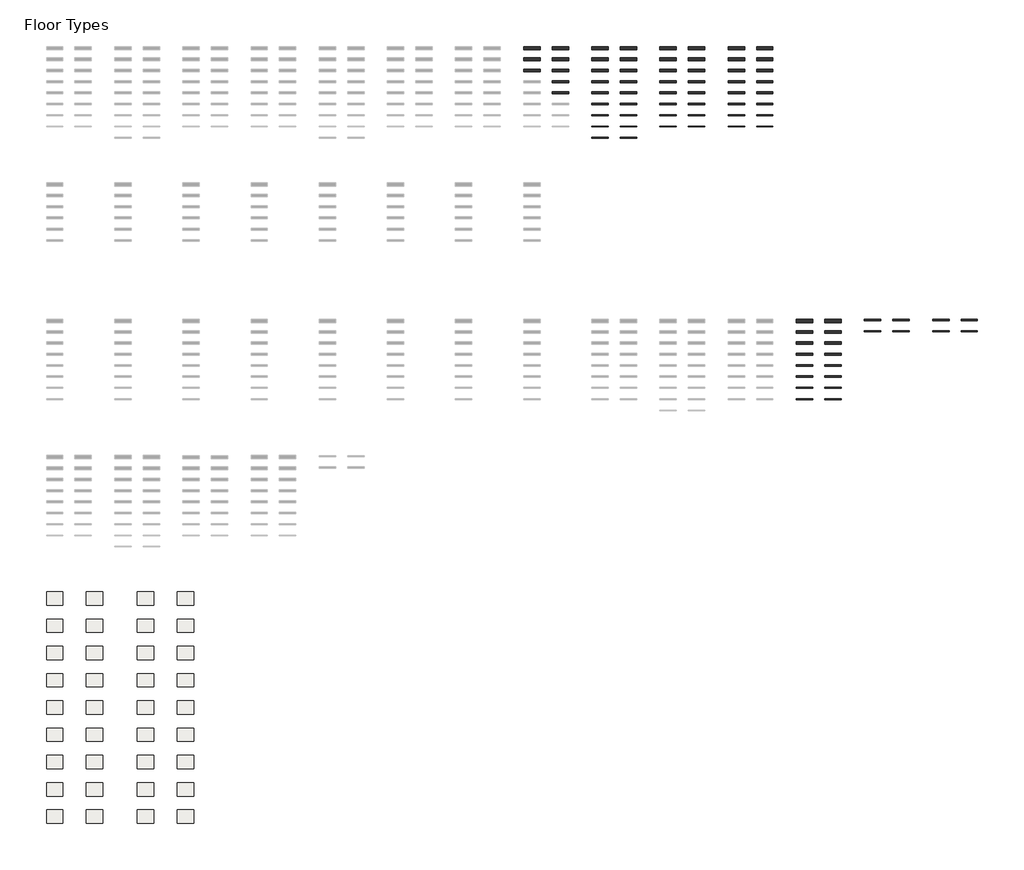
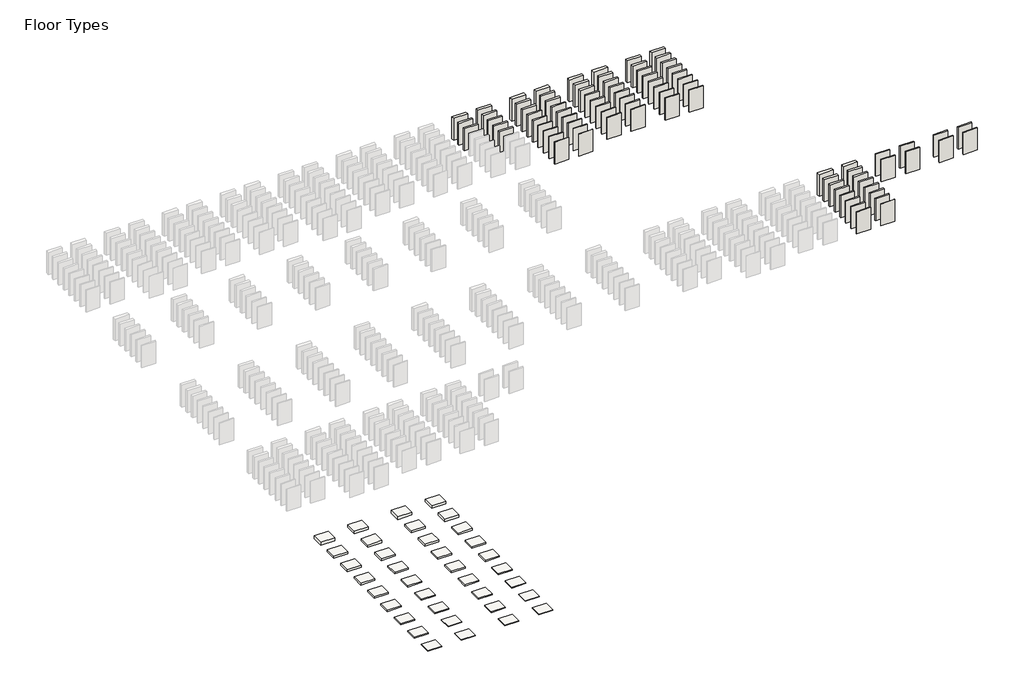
# One storey, part 4 of 4: 82 walls, 36 coverings.
"""IFC4 building model written with IfcOpenShell, lengths in millimetres."""

from ifc_helpers import new_model, si_unit, origin, origin_with_axes, place, context, project, spatial, polyline, outline, extrude, element, save

model = new_model("IFC4")

# Units and contexts
model_context = context("Model", 3, world=origin())
ifc_project = project(units=[si_unit("LENGTHUNIT", "METRE", prefix="MILLI")], contexts=[model_context])

# Site, building, storey
site = spatial("IfcSite", under=ifc_project)
building = spatial("IfcBuilding", under=site)
storey = spatial("IfcBuildingStorey", under=building, Name="Floor Types", Elevation=0.0)

# Coverings
placement = place(None, origin())
element("IfcCovering", 1, ObjectType="ASTE_PS1200PC_NS_300mm", at=placement, inside=storey, context=model_context, shape_type="SweptSolid", body=[
    extrude(outline(polyline([(1447.8085217, -64998.0), (1447.8085217, -66173.2958828), (0.0, -66173.2958828), (0.0, -64998.0), (1447.8085217, -64998.0)])), origin_with_axes(), (0.0, 0.0, 1.0), 300.0),
])
element("IfcCovering", 2, ObjectType="ASTE_PS1200PC_EW_300mm", at=placement, inside=storey, context=model_context, shape_type="SweptSolid", body=[
    extrude(outline(polyline([(4947.8085217, -64998.0), (4947.8085217, -66173.2958828), (3500.0, -66173.2958828), (3500.0, -64998.0), (4947.8085217, -64998.0)])), origin_with_axes(), (0.0, 0.0, 1.0), 300.0),
])
element("IfcCovering", 3, ObjectType="ASTE_PS1200PC_NS_240mm", at=placement, inside=storey, context=model_context, shape_type="SweptSolid", body=[
    extrude(outline(polyline([(1447.8085217, -67398.0), (1447.8085217, -68573.2958828), (0.0, -68573.2958828), (0.0, -67398.0), (1447.8085217, -67398.0)])), origin_with_axes(), (0.0, 0.0, 1.0), 240.0),
])
element("IfcCovering", 4, ObjectType="ASTE_PS1200PC_EW_240mm", at=placement, inside=storey, context=model_context, shape_type="SweptSolid", body=[
    extrude(outline(polyline([(4947.8085217, -67398.0), (4947.8085217, -68573.2958828), (3500.0, -68573.2958828), (3500.0, -67398.0), (4947.8085217, -67398.0)])), origin_with_axes(), (0.0, 0.0, 1.0), 240.0),
])
element("IfcCovering", 5, ObjectType="ASTE_PS1200PC_NS_200mm", at=placement, inside=storey, context=model_context, shape_type="SweptSolid", body=[
    extrude(outline(polyline([(1447.8085217, -69798.0), (1447.8085217, -70973.2958828), (0.0, -70973.2958828), (0.0, -69798.0), (1447.8085217, -69798.0)])), origin_with_axes(), (0.0, 0.0, 1.0), 200.0),
])
element("IfcCovering", 6, ObjectType="ASTE_PS1200PC_EW_200mm", at=placement, inside=storey, context=model_context, shape_type="SweptSolid", body=[
    extrude(outline(polyline([(4947.8085217, -69798.0), (4947.8085217, -70973.2958828), (3500.0, -70973.2958828), (3500.0, -69798.0), (4947.8085217, -69798.0)])), origin_with_axes(), (0.0, 0.0, 1.0), 200.0),
])
element("IfcCovering", 7, ObjectType="ASTE_PS1200PC_NS_175mm", at=placement, inside=storey, context=model_context, shape_type="SweptSolid", body=[
    extrude(outline(polyline([(1447.8085217, -72198.0), (1447.8085217, -73373.2958828), (0.0, -73373.2958828), (0.0, -72198.0), (1447.8085217, -72198.0)])), origin_with_axes(), (0.0, 0.0, 1.0), 175.0),
])
element("IfcCovering", 8, ObjectType="ASTE_PS1200PC_EW_175mm", at=placement, inside=storey, context=model_context, shape_type="SweptSolid", body=[
    extrude(outline(polyline([(4947.8085217, -72198.0), (4947.8085217, -73373.2958828), (3500.0, -73373.2958828), (3500.0, -72198.0), (4947.8085217, -72198.0)])), origin_with_axes(), (0.0, 0.0, 1.0), 175.0),
])
element("IfcCovering", 9, ObjectType="ASTE_PS1200PC_NS_150mm", at=placement, inside=storey, context=model_context, shape_type="SweptSolid", body=[
    extrude(outline(polyline([(1447.8085217, -74598.0), (1447.8085217, -75773.2958828), (0.0, -75773.2958828), (0.0, -74598.0), (1447.8085217, -74598.0)])), origin_with_axes(), (0.0, 0.0, 1.0), 150.0),
])
element("IfcCovering", 10, ObjectType="ASTE_PS1200PC_EW_150mm", at=placement, inside=storey, context=model_context, shape_type="SweptSolid", body=[
    extrude(outline(polyline([(4947.8085217, -74598.0), (4947.8085217, -75773.2958828), (3500.0, -75773.2958828), (3500.0, -74598.0), (4947.8085217, -74598.0)])), origin_with_axes(), (0.0, 0.0, 1.0), 150.0),
])
element("IfcCovering", 11, ObjectType="ASTE_PS1200PC_NS_120mm", at=placement, inside=storey, context=model_context, shape_type="SweptSolid", body=[
    extrude(outline(polyline([(1447.8085217, -76998.0), (1447.8085217, -78173.2958828), (0.0, -78173.2958828), (0.0, -76998.0), (1447.8085217, -76998.0)])), origin_with_axes(), (0.0, 0.0, 1.0), 120.0),
])
element("IfcCovering", 12, ObjectType="ASTE_PS1200PC_EW_120mm", at=placement, inside=storey, context=model_context, shape_type="SweptSolid", body=[
    extrude(outline(polyline([(4947.8085217, -76998.0), (4947.8085217, -78173.2958828), (3500.0, -78173.2958828), (3500.0, -76998.0), (4947.8085217, -76998.0)])), origin_with_axes(), (0.0, 0.0, 1.0), 120.0),
])
element("IfcCovering", 13, ObjectType="ASTE_PS1200PC_NS_100mm", at=placement, inside=storey, context=model_context, shape_type="SweptSolid", body=[
    extrude(outline(polyline([(1447.8085217, -79398.0), (1447.8085217, -80573.2958828), (0.0, -80573.2958828), (0.0, -79398.0), (1447.8085217, -79398.0)])), origin_with_axes(), (0.0, 0.0, 1.0), 100.0),
])
element("IfcCovering", 14, ObjectType="ASTE_PS1200PC_EW_100mm", at=placement, inside=storey, context=model_context, shape_type="SweptSolid", body=[
    extrude(outline(polyline([(4947.8085217, -79398.0), (4947.8085217, -80573.2958828), (3500.0, -80573.2958828), (3500.0, -79398.0), (4947.8085217, -79398.0)])), origin_with_axes(), (0.0, 0.0, 1.0), 100.0),
])
element("IfcCovering", 15, ObjectType="ASTE_PS1200PC_NS_080mm", at=placement, inside=storey, context=model_context, shape_type="SweptSolid", body=[
    extrude(outline(polyline([(1447.8085217, -81798.0), (1447.8085217, -82973.2958828), (0.0, -82973.2958828), (0.0, -81798.0), (1447.8085217, -81798.0)])), origin_with_axes(), (0.0, 0.0, 1.0), 80.0),
])
element("IfcCovering", 16, ObjectType="ASTE_PS1200PC_EW_080mm", at=placement, inside=storey, context=model_context, shape_type="SweptSolid", body=[
    extrude(outline(polyline([(4947.8085217, -81798.0), (4947.8085217, -82973.2958828), (3500.0, -82973.2958828), (3500.0, -81798.0), (4947.8085217, -81798.0)])), origin_with_axes(), (0.0, 0.0, 1.0), 80.0),
])
element("IfcCovering", 17, ObjectType="ASTE_PS1200PC_NS_050mm", at=placement, inside=storey, context=model_context, shape_type="SweptSolid", body=[
    extrude(outline(polyline([(1447.8085217, -84198.0), (1447.8085217, -85373.2958828), (0.0, -85373.2958828), (0.0, -84198.0), (1447.8085217, -84198.0)])), origin_with_axes(), (0.0, 0.0, 1.0), 50.0),
])
element("IfcCovering", 18, ObjectType="ASTE_PS1200PC_EW_050mm", at=placement, inside=storey, context=model_context, shape_type="SweptSolid", body=[
    extrude(outline(polyline([(4947.8085217, -84198.0), (4947.8085217, -85373.2958828), (3500.0, -85373.2958828), (3500.0, -84198.0), (4947.8085217, -84198.0)])), origin_with_axes(), (0.0, 0.0, 1.0), 50.0),
])
element("IfcCovering", 19, ObjectType="ASTE_PS1200PC-LEC_NS_300mm", at=placement, inside=storey, context=model_context, shape_type="SweptSolid", body=[
    extrude(outline(polyline([(9447.8085217, -64998.0), (9447.8085217, -66173.2958828), (8000.0, -66173.2958828), (8000.0, -64998.0), (9447.8085217, -64998.0)])), origin_with_axes(), (0.0, 0.0, 1.0), 300.0),
])
element("IfcCovering", 20, ObjectType="ASTE_PS1200PC-LEC_EW_300mm", at=placement, inside=storey, context=model_context, shape_type="SweptSolid", body=[
    extrude(outline(polyline([(12947.8085217, -64998.0), (12947.8085217, -66173.2958828), (11500.0, -66173.2958828), (11500.0, -64998.0), (12947.8085217, -64998.0)])), origin_with_axes(), (0.0, 0.0, 1.0), 300.0),
])
element("IfcCovering", 21, ObjectType="ASTE_PS1200PC-LEC_NS_240mm", at=placement, inside=storey, context=model_context, shape_type="SweptSolid", body=[
    extrude(outline(polyline([(9447.8085217, -67398.0), (9447.8085217, -68573.2958828), (8000.0, -68573.2958828), (8000.0, -67398.0), (9447.8085217, -67398.0)])), origin_with_axes(), (0.0, 0.0, 1.0), 240.0),
])
element("IfcCovering", 22, ObjectType="ASTE_PS1200PC-LEC_EW_240mm", at=placement, inside=storey, context=model_context, shape_type="SweptSolid", body=[
    extrude(outline(polyline([(12947.8085217, -67398.0), (12947.8085217, -68573.2958828), (11500.0, -68573.2958828), (11500.0, -67398.0), (12947.8085217, -67398.0)])), origin_with_axes(), (0.0, 0.0, 1.0), 240.0),
])
element("IfcCovering", 23, ObjectType="ASTE_PS1200PC-LEC_NS_200mm", at=placement, inside=storey, context=model_context, shape_type="SweptSolid", body=[
    extrude(outline(polyline([(9447.8085217, -69798.0), (9447.8085217, -70973.2958828), (8000.0, -70973.2958828), (8000.0, -69798.0), (9447.8085217, -69798.0)])), origin_with_axes(), (0.0, 0.0, 1.0), 200.0),
])
element("IfcCovering", 24, ObjectType="ASTE_PS1200PC-LEC_EW_200mm", at=placement, inside=storey, context=model_context, shape_type="SweptSolid", body=[
    extrude(outline(polyline([(12947.8085217, -69798.0), (12947.8085217, -70973.2958828), (11500.0, -70973.2958828), (11500.0, -69798.0), (12947.8085217, -69798.0)])), origin_with_axes(), (0.0, 0.0, 1.0), 200.0),
])
element("IfcCovering", 25, ObjectType="ASTE_PS1200PC-LEC_NS_175mm", at=placement, inside=storey, context=model_context, shape_type="SweptSolid", body=[
    extrude(outline(polyline([(9447.8085217, -72198.0), (9447.8085217, -73373.2958828), (8000.0, -73373.2958828), (8000.0, -72198.0), (9447.8085217, -72198.0)])), origin_with_axes(), (0.0, 0.0, 1.0), 175.0),
])
element("IfcCovering", 26, ObjectType="ASTE_PS1200PC-LEC_EW_175mm", at=placement, inside=storey, context=model_context, shape_type="SweptSolid", body=[
    extrude(outline(polyline([(12947.8085217, -72198.0), (12947.8085217, -73373.2958828), (11500.0, -73373.2958828), (11500.0, -72198.0), (12947.8085217, -72198.0)])), origin_with_axes(), (0.0, 0.0, 1.0), 175.0),
])
element("IfcCovering", 27, ObjectType="ASTE_PS1200PC-LEC_NS_150mm", at=placement, inside=storey, context=model_context, shape_type="SweptSolid", body=[
    extrude(outline(polyline([(9447.8085217, -74598.0), (9447.8085217, -75773.2958828), (8000.0, -75773.2958828), (8000.0, -74598.0), (9447.8085217, -74598.0)])), origin_with_axes(), (0.0, 0.0, 1.0), 150.0),
])
element("IfcCovering", 28, ObjectType="ASTE_PS1200PC-LEC_EW_150mm", at=placement, inside=storey, context=model_context, shape_type="SweptSolid", body=[
    extrude(outline(polyline([(12947.8085217, -74598.0), (12947.8085217, -75773.2958828), (11500.0, -75773.2958828), (11500.0, -74598.0), (12947.8085217, -74598.0)])), origin_with_axes(), (0.0, 0.0, 1.0), 150.0),
])
element("IfcCovering", 29, ObjectType="ASTE_PS1200PC-LEC_NS_120mm", at=placement, inside=storey, context=model_context, shape_type="SweptSolid", body=[
    extrude(outline(polyline([(9447.8085217, -76998.0), (9447.8085217, -78173.2958828), (8000.0, -78173.2958828), (8000.0, -76998.0), (9447.8085217, -76998.0)])), origin_with_axes(), (0.0, 0.0, 1.0), 120.0),
])
element("IfcCovering", 30, ObjectType="ASTE_PS1200PC-LEC_EW_120mm", at=placement, inside=storey, context=model_context, shape_type="SweptSolid", body=[
    extrude(outline(polyline([(12947.8085217, -76998.0), (12947.8085217, -78173.2958828), (11500.0, -78173.2958828), (11500.0, -76998.0), (12947.8085217, -76998.0)])), origin_with_axes(), (0.0, 0.0, 1.0), 120.0),
])
element("IfcCovering", 31, ObjectType="ASTE_PS1200PC-LEC_NS_100mm", at=placement, inside=storey, context=model_context, shape_type="SweptSolid", body=[
    extrude(outline(polyline([(9447.8085217, -79398.0), (9447.8085217, -80573.2958828), (8000.0, -80573.2958828), (8000.0, -79398.0), (9447.8085217, -79398.0)])), origin_with_axes(), (0.0, 0.0, 1.0), 100.0),
])
element("IfcCovering", 32, ObjectType="ASTE_PS1200PC-LEC_EW_100mm", at=placement, inside=storey, context=model_context, shape_type="SweptSolid", body=[
    extrude(outline(polyline([(12947.8085217, -79398.0), (12947.8085217, -80573.2958828), (11500.0, -80573.2958828), (11500.0, -79398.0), (12947.8085217, -79398.0)])), origin_with_axes(), (0.0, 0.0, 1.0), 100.0),
])
element("IfcCovering", 33, ObjectType="ASTE_PS1200PC-LEC_NS_080mm", at=placement, inside=storey, context=model_context, shape_type="SweptSolid", body=[
    extrude(outline(polyline([(9447.8085217, -81798.0), (9447.8085217, -82973.2958828), (8000.0, -82973.2958828), (8000.0, -81798.0), (9447.8085217, -81798.0)])), origin_with_axes(), (0.0, 0.0, 1.0), 80.0),
])
element("IfcCovering", 34, ObjectType="ASTE_PS1200PC-LEC_EW_080mm", at=placement, inside=storey, context=model_context, shape_type="SweptSolid", body=[
    extrude(outline(polyline([(12947.8085217, -81798.0), (12947.8085217, -82973.2958828), (11500.0, -82973.2958828), (11500.0, -81798.0), (12947.8085217, -81798.0)])), origin_with_axes(), (0.0, 0.0, 1.0), 80.0),
])
element("IfcCovering", 35, ObjectType="ASTE_PS1200PC-LEC_NS_050mm", at=placement, inside=storey, context=model_context, shape_type="SweptSolid", body=[
    extrude(outline(polyline([(9447.8085217, -84198.0), (9447.8085217, -85373.2958828), (8000.0, -85373.2958828), (8000.0, -84198.0), (9447.8085217, -84198.0)])), origin_with_axes(), (0.0, 0.0, 1.0), 50.0),
])
element("IfcCovering", 36, ObjectType="ASTE_PS1200PC-LEC_EW_050mm", at=placement, inside=storey, context=model_context, shape_type="SweptSolid", body=[
    extrude(outline(polyline([(12947.8085217, -84198.0), (12947.8085217, -85373.2958828), (11500.0, -85373.2958828), (11500.0, -84198.0), (12947.8085217, -84198.0)])), origin_with_axes(), (0.0, 0.0, 1.0), 50.0),
])

# Walls
element("IfcWall", 37, ObjectType="ASTL_PS1200PB-LEC_Hz_300mm", at=placement, inside=storey, context=model_context, shape_type="SweptSolid", body=[
    extrude(outline(polyline([(43447.8085217, -17298.0), (42000.0, -17298.0), (42000.0, -16998.0), (43447.8085217, -16998.0), (43447.8085217, -17298.0)])), origin_with_axes(), (0.0, 0.0, 1.0), 2400.0),
])
element("IfcWall", 38, ObjectType="ASTL_PS1200PB-LEC_Hz_240mm", at=placement, inside=storey, context=model_context, shape_type="SweptSolid", body=[
    extrude(outline(polyline([(43447.8085217, -18239.0), (42000.0, -18239.0), (42000.0, -17999.0), (43447.8085217, -17999.0), (43447.8085217, -18239.0)])), origin_with_axes(), (0.0, 0.0, 1.0), 2400.0),
])
element("IfcWall", 39, ObjectType="ASTL_PS1200PB-LEC_Hz_200mm", at=placement, inside=storey, context=model_context, shape_type="SweptSolid", body=[
    extrude(outline(polyline([(43447.8085217, -19199.0), (42000.0, -19199.0), (42000.0, -18999.0), (43447.8085217, -18999.0), (43447.8085217, -19199.0)])), origin_with_axes(), (0.0, 0.0, 1.0), 2400.0),
])
element("IfcWall", 40, ObjectType="ASTL_PS1200PB-LEC_Vt_300mm", at=placement, inside=storey, context=model_context, shape_type="SweptSolid", body=[
    extrude(outline(polyline([(45947.8085217, -17298.0), (44500.0, -17298.0), (44500.0, -16998.0), (45947.8085217, -16998.0), (45947.8085217, -17298.0)])), origin_with_axes(), (0.0, 0.0, 1.0), 2400.0),
])
element("IfcWall", 41, ObjectType="ASTL_PS1200PB-LEC_Vt_240mm", at=placement, inside=storey, context=model_context, shape_type="SweptSolid", body=[
    extrude(outline(polyline([(45947.8085217, -18239.0), (44500.0, -18239.0), (44500.0, -17999.0), (45947.8085217, -17999.0), (45947.8085217, -18239.0)])), origin_with_axes(), (0.0, 0.0, 1.0), 2400.0),
])
element("IfcWall", 42, ObjectType="ASTL_PS1200PB-LEC_Vt_200mm", at=placement, inside=storey, context=model_context, shape_type="SweptSolid", body=[
    extrude(outline(polyline([(45947.8085217, -19199.0), (44500.0, -19199.0), (44500.0, -18999.0), (45947.8085217, -18999.0), (45947.8085217, -19199.0)])), origin_with_axes(), (0.0, 0.0, 1.0), 2400.0),
])
element("IfcWall", 43, ObjectType="ASTL_PS1200PB-LEC_Vt_175mm", at=placement, inside=storey, context=model_context, shape_type="SweptSolid", body=[
    extrude(outline(polyline([(45947.8085217, -20174.0), (44500.0, -20174.0), (44500.0, -19999.0), (45947.8085217, -19999.0), (45947.8085217, -20174.0)])), origin_with_axes(), (0.0, 0.0, 1.0), 2400.0),
])
element("IfcWall", 44, ObjectType="ASTL_PS1200PB-LEC_Vt_150mm", at=placement, inside=storey, context=model_context, shape_type="SweptSolid", body=[
    extrude(outline(polyline([(45947.8085217, -21149.0), (44500.0, -21149.0), (44500.0, -20999.0), (45947.8085217, -20999.0), (45947.8085217, -21149.0)])), origin_with_axes(), (0.0, 0.0, 1.0), 2400.0),
])
element("IfcWall", 45, ObjectType="ASTE_PS1200PB-LEC_Hz_300mm", at=placement, inside=storey, context=model_context, shape_type="SweptSolid", body=[
    extrude(outline(polyline([(49447.8085217, -17298.0), (48000.0, -17298.0), (48000.0, -16998.0), (49447.8085217, -16998.0), (49447.8085217, -17298.0)])), origin_with_axes(), (0.0, 0.0, 1.0), 2400.0),
])
element("IfcWall", 46, ObjectType="ASTE_PS1200PB-LEC_Hz_240mm", at=placement, inside=storey, context=model_context, shape_type="SweptSolid", body=[
    extrude(outline(polyline([(49447.8085217, -18239.0), (48000.0, -18239.0), (48000.0, -17999.0), (49447.8085217, -17999.0), (49447.8085217, -18239.0)])), origin_with_axes(), (0.0, 0.0, 1.0), 2400.0),
])
element("IfcWall", 47, ObjectType="ASTE_PS1200PB-LEC_Hz_200mm", at=placement, inside=storey, context=model_context, shape_type="SweptSolid", body=[
    extrude(outline(polyline([(49447.8085217, -19199.0), (48000.0, -19199.0), (48000.0, -18999.0), (49447.8085217, -18999.0), (49447.8085217, -19199.0)])), origin_with_axes(), (0.0, 0.0, 1.0), 2400.0),
])
element("IfcWall", 48, ObjectType="ASTE_PS1200PB-LEC_Hz_175mm", at=placement, inside=storey, context=model_context, shape_type="SweptSolid", body=[
    extrude(outline(polyline([(49447.8085217, -20174.0), (48000.0, -20174.0), (48000.0, -19999.0), (49447.8085217, -19999.0), (49447.8085217, -20174.0)])), origin_with_axes(), (0.0, 0.0, 1.0), 2400.0),
])
element("IfcWall", 49, ObjectType="ASTE_PS1200PB-LEC_Hz_150mm", at=placement, inside=storey, context=model_context, shape_type="SweptSolid", body=[
    extrude(outline(polyline([(49447.8085217, -21149.0), (48000.0, -21149.0), (48000.0, -20999.0), (49447.8085217, -20999.0), (49447.8085217, -21149.0)])), origin_with_axes(), (0.0, 0.0, 1.0), 2400.0),
])
element("IfcWall", 50, ObjectType="ASTE_PS1200PB-LEC_Hz_120mm", at=placement, inside=storey, context=model_context, shape_type="SweptSolid", body=[
    extrude(outline(polyline([(49447.8085217, -22119.0), (48000.0, -22119.0), (48000.0, -21999.0), (49447.8085217, -21999.0), (49447.8085217, -22119.0)])), origin_with_axes(), (0.0, 0.0, 1.0), 2400.0),
])
element("IfcWall", 51, ObjectType="ASTE_PS1200PB-LEC_Hz_100mm", at=placement, inside=storey, context=model_context, shape_type="SweptSolid", body=[
    extrude(outline(polyline([(49447.8085217, -23099.0), (48000.0, -23099.0), (48000.0, -22999.0), (49447.8085217, -22999.0), (49447.8085217, -23099.0)])), origin_with_axes(), (0.0, 0.0, 1.0), 2400.0),
])
element("IfcWall", 52, ObjectType="ASTE_PS1200PB-LEC_Hz_080mm", at=placement, inside=storey, context=model_context, shape_type="SweptSolid", body=[
    extrude(outline(polyline([(49447.8085217, -24079.0), (48000.0, -24079.0), (48000.0, -23999.0), (49447.8085217, -23999.0), (49447.8085217, -24079.0)])), origin_with_axes(), (0.0, 0.0, 1.0), 2400.0),
])
element("IfcWall", 53, ObjectType="ASTE_PS1200PB-LEC_Vt_300mm", at=placement, inside=storey, context=model_context, shape_type="SweptSolid", body=[
    extrude(outline(polyline([(51947.8085217, -17299.0), (50500.0, -17299.0), (50500.0, -16999.0), (51947.8085217, -16999.0), (51947.8085217, -17299.0)])), origin_with_axes(), (0.0, 0.0, 1.0), 2400.0),
])
element("IfcWall", 54, ObjectType="ASTE_PS1200PB-LEC_Vt_240mm", at=placement, inside=storey, context=model_context, shape_type="SweptSolid", body=[
    extrude(outline(polyline([(51947.8085217, -18239.0), (50500.0, -18239.0), (50500.0, -17999.0), (51947.8085217, -17999.0), (51947.8085217, -18239.0)])), origin_with_axes(), (0.0, 0.0, 1.0), 2400.0),
])
element("IfcWall", 55, ObjectType="ASTE_PS1200PB-LEC_Vt_200mm", at=placement, inside=storey, context=model_context, shape_type="SweptSolid", body=[
    extrude(outline(polyline([(51947.8085217, -19199.0), (50500.0, -19199.0), (50500.0, -18999.0), (51947.8085217, -18999.0), (51947.8085217, -19199.0)])), origin_with_axes(), (0.0, 0.0, 1.0), 2400.0),
])
element("IfcWall", 56, ObjectType="ASTE_PS1200PB-LEC_Vt_175mm", at=placement, inside=storey, context=model_context, shape_type="SweptSolid", body=[
    extrude(outline(polyline([(51947.8085217, -20174.0), (50500.0, -20174.0), (50500.0, -19999.0), (51947.8085217, -19999.0), (51947.8085217, -20174.0)])), origin_with_axes(), (0.0, 0.0, 1.0), 2400.0),
])
element("IfcWall", 57, ObjectType="ASTE_PS1200PB-LEC_Vt_150mm", at=placement, inside=storey, context=model_context, shape_type="SweptSolid", body=[
    extrude(outline(polyline([(51947.8085217, -21149.0), (50500.0, -21149.0), (50500.0, -20999.0), (51947.8085217, -20999.0), (51947.8085217, -21149.0)])), origin_with_axes(), (0.0, 0.0, 1.0), 2400.0),
])
element("IfcWall", 58, ObjectType="ASTE_PS1200PB-LEC_Vt_120mm", at=placement, inside=storey, context=model_context, shape_type="SweptSolid", body=[
    extrude(outline(polyline([(51947.8085217, -22119.0), (50500.0, -22119.0), (50500.0, -21999.0), (51947.8085217, -21999.0), (51947.8085217, -22119.0)])), origin_with_axes(), (0.0, 0.0, 1.0), 2400.0),
])
element("IfcWall", 59, ObjectType="ASTE_PS1200PB-LEC_Vt_100mm", at=placement, inside=storey, context=model_context, shape_type="SweptSolid", body=[
    extrude(outline(polyline([(51947.8085217, -23099.0), (50500.0, -23099.0), (50500.0, -22999.0), (51947.8085217, -22999.0), (51947.8085217, -23099.0)])), origin_with_axes(), (0.0, 0.0, 1.0), 2400.0),
])
element("IfcWall", 60, ObjectType="ASTE_PS1200PB-LEC_Vt_080mm", at=placement, inside=storey, context=model_context, shape_type="SweptSolid", body=[
    extrude(outline(polyline([(51947.8085217, -24079.0), (50500.0, -24079.0), (50500.0, -23999.0), (51947.8085217, -23999.0), (51947.8085217, -24079.0)])), origin_with_axes(), (0.0, 0.0, 1.0), 2400.0),
])
element("IfcWall", 61, ObjectType="ASTE_PS1200PB-LEC_Hz_050mm", at=placement, inside=storey, context=model_context, shape_type="SweptSolid", body=[
    extrude(outline(polyline([(49447.8085217, -25049.0), (48000.0, -25049.0), (48000.0, -24999.0), (49447.8085217, -24999.0), (49447.8085217, -25049.0)])), origin_with_axes(), (0.0, 0.0, 1.0), 2400.0),
])
element("IfcWall", 62, ObjectType="ASTE_PS1200PB-LEC_Vt_050mm", at=placement, inside=storey, context=model_context, shape_type="SweptSolid", body=[
    extrude(outline(polyline([(51947.8085217, -25049.0), (50500.0, -25049.0), (50500.0, -24999.0), (51947.8085217, -24999.0), (51947.8085217, -25049.0)])), origin_with_axes(), (0.0, 0.0, 1.0), 2400.0),
])
element("IfcWall", 63, ObjectType="ASTF_PS1200PB-LEC_Hz_300mm", at=placement, inside=storey, context=model_context, shape_type="SweptSolid", body=[
    extrude(outline(polyline([(55447.8085217, -17298.0), (54000.0, -17298.0), (54000.0, -16998.0), (55447.8085217, -16998.0), (55447.8085217, -17298.0)])), origin_with_axes(), (0.0, 0.0, 1.0), 2400.0),
])
element("IfcWall", 64, ObjectType="ASTF_PS1200PB-LEC_Hz_240mm", at=placement, inside=storey, context=model_context, shape_type="SweptSolid", body=[
    extrude(outline(polyline([(55447.8085217, -18239.0), (54000.0, -18239.0), (54000.0, -17999.0), (55447.8085217, -17999.0), (55447.8085217, -18239.0)])), origin_with_axes(), (0.0, 0.0, 1.0), 2400.0),
])
element("IfcWall", 65, ObjectType="ASTF_PS1200PB-LEC_Hz_200mm", at=placement, inside=storey, context=model_context, shape_type="SweptSolid", body=[
    extrude(outline(polyline([(55447.8085217, -19199.0), (54000.0, -19199.0), (54000.0, -18999.0), (55447.8085217, -18999.0), (55447.8085217, -19199.0)])), origin_with_axes(), (0.0, 0.0, 1.0), 2400.0),
])
element("IfcWall", 66, ObjectType="ASTF_PS1200PB-LEC_Hz_175mm", at=placement, inside=storey, context=model_context, shape_type="SweptSolid", body=[
    extrude(outline(polyline([(55447.8085217, -20174.0), (54000.0, -20174.0), (54000.0, -19999.0), (55447.8085217, -19999.0), (55447.8085217, -20174.0)])), origin_with_axes(), (0.0, 0.0, 1.0), 2400.0),
])
element("IfcWall", 67, ObjectType="ASTF_PS1200PB-LEC_Hz_150mm", at=placement, inside=storey, context=model_context, shape_type="SweptSolid", body=[
    extrude(outline(polyline([(55447.8085217, -21149.0), (54000.0, -21149.0), (54000.0, -20999.0), (55447.8085217, -20999.0), (55447.8085217, -21149.0)])), origin_with_axes(), (0.0, 0.0, 1.0), 2400.0),
])
element("IfcWall", 68, ObjectType="ASTF_PS1200PB-LEC_Hz_120mm", at=placement, inside=storey, context=model_context, shape_type="SweptSolid", body=[
    extrude(outline(polyline([(55447.8085217, -22119.0), (54000.0, -22119.0), (54000.0, -21999.0), (55447.8085217, -21999.0), (55447.8085217, -22119.0)])), origin_with_axes(), (0.0, 0.0, 1.0), 2400.0),
])
element("IfcWall", 69, ObjectType="ASTF_PS1200PB-LEC_Hz_100mm", at=placement, inside=storey, context=model_context, shape_type="SweptSolid", body=[
    extrude(outline(polyline([(55447.8085217, -23099.0), (54000.0, -23099.0), (54000.0, -22999.0), (55447.8085217, -22999.0), (55447.8085217, -23099.0)])), origin_with_axes(), (0.0, 0.0, 1.0), 2400.0),
])
element("IfcWall", 70, ObjectType="ASTF_PS1200PB-LEC_Hz_080mm", at=placement, inside=storey, context=model_context, shape_type="SweptSolid", body=[
    extrude(outline(polyline([(55447.8085217, -24079.0), (54000.0, -24079.0), (54000.0, -23999.0), (55447.8085217, -23999.0), (55447.8085217, -24079.0)])), origin_with_axes(), (0.0, 0.0, 1.0), 2400.0),
])
element("IfcWall", 71, ObjectType="ASTF_PS1200PB-LEC_Vt_300mm", at=placement, inside=storey, context=model_context, shape_type="SweptSolid", body=[
    extrude(outline(polyline([(57947.8085217, -17298.0), (56500.0, -17298.0), (56500.0, -16998.0), (57947.8085217, -16998.0), (57947.8085217, -17298.0)])), origin_with_axes(), (0.0, 0.0, 1.0), 2400.0),
])
element("IfcWall", 72, ObjectType="ASTF_PS1200PB-LEC_Vt_240mm", at=placement, inside=storey, context=model_context, shape_type="SweptSolid", body=[
    extrude(outline(polyline([(57947.8085217, -18239.0), (56500.0, -18239.0), (56500.0, -17999.0), (57947.8085217, -17999.0), (57947.8085217, -18239.0)])), origin_with_axes(), (0.0, 0.0, 1.0), 2400.0),
])
element("IfcWall", 73, ObjectType="ASTF_PS1200PB-LEC_Vt_200mm", at=placement, inside=storey, context=model_context, shape_type="SweptSolid", body=[
    extrude(outline(polyline([(57947.8085217, -19199.0), (56500.0, -19199.0), (56500.0, -18999.0), (57947.8085217, -18999.0), (57947.8085217, -19199.0)])), origin_with_axes(), (0.0, 0.0, 1.0), 2400.0),
])
element("IfcWall", 74, ObjectType="ASTF_PS1200PB-LEC_Vt_175mm", at=placement, inside=storey, context=model_context, shape_type="SweptSolid", body=[
    extrude(outline(polyline([(57947.8085217, -20174.0), (56500.0, -20174.0), (56500.0, -19999.0), (57947.8085217, -19999.0), (57947.8085217, -20174.0)])), origin_with_axes(), (0.0, 0.0, 1.0), 2400.0),
])
element("IfcWall", 75, ObjectType="ASTF_PS1200PB-LEC_Vt_150mm", at=placement, inside=storey, context=model_context, shape_type="SweptSolid", body=[
    extrude(outline(polyline([(57947.8085217, -21149.0), (56500.0, -21149.0), (56500.0, -20999.0), (57947.8085217, -20999.0), (57947.8085217, -21149.0)])), origin_with_axes(), (0.0, 0.0, 1.0), 2400.0),
])
element("IfcWall", 76, ObjectType="ASTF_PS1200PB-LEC_Vt_120mm", at=placement, inside=storey, context=model_context, shape_type="SweptSolid", body=[
    extrude(outline(polyline([(57947.8085217, -22119.0), (56500.0, -22119.0), (56500.0, -21999.0), (57947.8085217, -21999.0), (57947.8085217, -22119.0)])), origin_with_axes(), (0.0, 0.0, 1.0), 2400.0),
])
element("IfcWall", 77, ObjectType="ASTF_PS1200PB-LEC_Vt_100mm", at=placement, inside=storey, context=model_context, shape_type="SweptSolid", body=[
    extrude(outline(polyline([(57947.8085217, -23099.0), (56500.0, -23099.0), (56500.0, -22999.0), (57947.8085217, -22999.0), (57947.8085217, -23099.0)])), origin_with_axes(), (0.0, 0.0, 1.0), 2400.0),
])
element("IfcWall", 78, ObjectType="ASTF_PS1200PB-LEC_Vt_080mm", at=placement, inside=storey, context=model_context, shape_type="SweptSolid", body=[
    extrude(outline(polyline([(57947.8085217, -24079.0), (56500.0, -24079.0), (56500.0, -23999.0), (57947.8085217, -23999.0), (57947.8085217, -24079.0)])), origin_with_axes(), (0.0, 0.0, 1.0), 2400.0),
])
element("IfcWall", 79, ObjectType="ASTS_PS1200PB-LEC_Hz_300mm", at=placement, inside=storey, context=model_context, shape_type="SweptSolid", body=[
    extrude(outline(polyline([(61447.8085217, -17298.0), (60000.0, -17298.0), (60000.0, -16998.0), (61447.8085217, -16998.0), (61447.8085217, -17298.0)])), origin_with_axes(), (0.0, 0.0, 1.0), 2400.0),
])
element("IfcWall", 80, ObjectType="ASTS_PS1200PB-LEC_Hz_240mm", at=placement, inside=storey, context=model_context, shape_type="SweptSolid", body=[
    extrude(outline(polyline([(61447.8085217, -18239.0), (60000.0, -18239.0), (60000.0, -17999.0), (61447.8085217, -17999.0), (61447.8085217, -18239.0)])), origin_with_axes(), (0.0, 0.0, 1.0), 2400.0),
])
element("IfcWall", 81, ObjectType="ASTS_PS1200PB-LEC_Hz_200mm", at=placement, inside=storey, context=model_context, shape_type="SweptSolid", body=[
    extrude(outline(polyline([(61447.8085217, -19199.0), (60000.0, -19199.0), (60000.0, -18999.0), (61447.8085217, -18999.0), (61447.8085217, -19199.0)])), origin_with_axes(), (0.0, 0.0, 1.0), 2400.0),
])
element("IfcWall", 82, ObjectType="ASTS_PS1200PB-LEC_Hz_175mm", at=placement, inside=storey, context=model_context, shape_type="SweptSolid", body=[
    extrude(outline(polyline([(61447.8085217, -20174.0), (60000.0, -20174.0), (60000.0, -19999.0), (61447.8085217, -19999.0), (61447.8085217, -20174.0)])), origin_with_axes(), (0.0, 0.0, 1.0), 2400.0),
])
element("IfcWall", 83, ObjectType="ASTS_PS1200PB-LEC_Hz_150mm", at=placement, inside=storey, context=model_context, shape_type="SweptSolid", body=[
    extrude(outline(polyline([(61447.8085217, -21149.0), (60000.0, -21149.0), (60000.0, -20999.0), (61447.8085217, -20999.0), (61447.8085217, -21149.0)])), origin_with_axes(), (0.0, 0.0, 1.0), 2400.0),
])
element("IfcWall", 84, ObjectType="ASTS_PS1200PB-LEC_Hz_120mm", at=placement, inside=storey, context=model_context, shape_type="SweptSolid", body=[
    extrude(outline(polyline([(61447.8085217, -22119.0), (60000.0, -22119.0), (60000.0, -21999.0), (61447.8085217, -21999.0), (61447.8085217, -22119.0)])), origin_with_axes(), (0.0, 0.0, 1.0), 2400.0),
])
element("IfcWall", 85, ObjectType="ASTS_PS1200PB-LEC_Hz_100mm", at=placement, inside=storey, context=model_context, shape_type="SweptSolid", body=[
    extrude(outline(polyline([(61447.8085217, -23099.0), (60000.0, -23099.0), (60000.0, -22999.0), (61447.8085217, -22999.0), (61447.8085217, -23099.0)])), origin_with_axes(), (0.0, 0.0, 1.0), 2400.0),
])
element("IfcWall", 86, ObjectType="ASTS_PS1200PB-LEC_Hz_080mm", at=placement, inside=storey, context=model_context, shape_type="SweptSolid", body=[
    extrude(outline(polyline([(61447.8085217, -24079.0), (60000.0, -24079.0), (60000.0, -23999.0), (61447.8085217, -23999.0), (61447.8085217, -24079.0)])), origin_with_axes(), (0.0, 0.0, 1.0), 2400.0),
])
element("IfcWall", 87, ObjectType="ASTS_PS1200PB-LEC_Vt_300mm", at=placement, inside=storey, context=model_context, shape_type="SweptSolid", body=[
    extrude(outline(polyline([(63947.8085217, -17298.0), (62500.0, -17298.0), (62500.0, -16998.0), (63947.8085217, -16998.0), (63947.8085217, -17298.0)])), origin_with_axes(), (0.0, 0.0, 1.0), 2400.0),
])
element("IfcWall", 88, ObjectType="ASTS_PS1200PB-LEC_Vt_240mm", at=placement, inside=storey, context=model_context, shape_type="SweptSolid", body=[
    extrude(outline(polyline([(63947.8085217, -18239.0), (62500.0, -18239.0), (62500.0, -17999.0), (63947.8085217, -17999.0), (63947.8085217, -18239.0)])), origin_with_axes(), (0.0, 0.0, 1.0), 2400.0),
])
element("IfcWall", 89, ObjectType="ASTS_PS1200PB-LEC_Vt_200mm", at=placement, inside=storey, context=model_context, shape_type="SweptSolid", body=[
    extrude(outline(polyline([(63947.8085217, -19199.0), (62500.0, -19199.0), (62500.0, -18999.0), (63947.8085217, -18999.0), (63947.8085217, -19199.0)])), origin_with_axes(), (0.0, 0.0, 1.0), 2400.0),
])
element("IfcWall", 90, ObjectType="ASTS_PS1200PB-LEC_Vt_175mm", at=placement, inside=storey, context=model_context, shape_type="SweptSolid", body=[
    extrude(outline(polyline([(63947.8085217, -20174.0), (62500.0, -20174.0), (62500.0, -19999.0), (63947.8085217, -19999.0), (63947.8085217, -20174.0)])), origin_with_axes(), (0.0, 0.0, 1.0), 2400.0),
])
element("IfcWall", 91, ObjectType="ASTS_PS1200PB-LEC_Vt_150mm", at=placement, inside=storey, context=model_context, shape_type="SweptSolid", body=[
    extrude(outline(polyline([(63947.8085217, -21149.0), (62500.0, -21149.0), (62500.0, -20999.0), (63947.8085217, -20999.0), (63947.8085217, -21149.0)])), origin_with_axes(), (0.0, 0.0, 1.0), 2400.0),
])
element("IfcWall", 92, ObjectType="ASTS_PS1200PB-LEC_Vt_120mm", at=placement, inside=storey, context=model_context, shape_type="SweptSolid", body=[
    extrude(outline(polyline([(63947.8085217, -22119.0), (62500.0, -22119.0), (62500.0, -21999.0), (63947.8085217, -21999.0), (63947.8085217, -22119.0)])), origin_with_axes(), (0.0, 0.0, 1.0), 2400.0),
])
element("IfcWall", 93, ObjectType="ASTS_PS1200PB-LEC_Vt_100mm", at=placement, inside=storey, context=model_context, shape_type="SweptSolid", body=[
    extrude(outline(polyline([(63947.8085217, -23099.0), (62500.0, -23099.0), (62500.0, -22999.0), (63947.8085217, -22999.0), (63947.8085217, -23099.0)])), origin_with_axes(), (0.0, 0.0, 1.0), 2400.0),
])
element("IfcWall", 94, ObjectType="ASTS_PS1200PB-LEC_Vt_080mm", at=placement, inside=storey, context=model_context, shape_type="SweptSolid", body=[
    extrude(outline(polyline([(63947.8085217, -24079.0), (62500.0, -24079.0), (62500.0, -23999.0), (63947.8085217, -23999.0), (63947.8085217, -24079.0)])), origin_with_axes(), (0.0, 0.0, 1.0), 2400.0),
])
element("IfcWall", 95, ObjectType="ASTS_PS1200PL_Hz_300mm", at=placement, inside=storey, context=model_context, shape_type="SweptSolid", body=[
    extrude(outline(polyline([(67447.8085217, -41299.0), (66000.0, -41299.0), (66000.0, -40999.0), (67447.8085217, -40999.0), (67447.8085217, -41299.0)])), origin_with_axes(), (0.0, 0.0, 1.0), 2400.0),
])
element("IfcWall", 96, ObjectType="ASTS_PS1200PL_Hz_240mm", at=placement, inside=storey, context=model_context, shape_type="SweptSolid", body=[
    extrude(outline(polyline([(67447.8085217, -42239.0), (66000.0, -42239.0), (66000.0, -41999.0), (67447.8085217, -41999.0), (67447.8085217, -42239.0)])), origin_with_axes(), (0.0, 0.0, 1.0), 2400.0),
])
element("IfcWall", 97, ObjectType="ASTS_PS1200PL_Hz_200mm", at=placement, inside=storey, context=model_context, shape_type="SweptSolid", body=[
    extrude(outline(polyline([(67447.8085217, -43199.0), (66000.0, -43199.0), (66000.0, -42999.0), (67447.8085217, -42999.0), (67447.8085217, -43199.0)])), origin_with_axes(), (0.0, 0.0, 1.0), 2400.0),
])
element("IfcWall", 98, ObjectType="ASTS_PS1200PL_Hz_175mm", at=placement, inside=storey, context=model_context, shape_type="SweptSolid", body=[
    extrude(outline(polyline([(67447.8085217, -44174.0), (66000.0, -44174.0), (66000.0, -43999.0), (67447.8085217, -43999.0), (67447.8085217, -44174.0)])), origin_with_axes(), (0.0, 0.0, 1.0), 2400.0),
])
element("IfcWall", 99, ObjectType="ASTS_PS1200PL_Hz_150mm", at=placement, inside=storey, context=model_context, shape_type="SweptSolid", body=[
    extrude(outline(polyline([(67447.8085217, -45149.0), (66000.0, -45149.0), (66000.0, -44999.0), (67447.8085217, -44999.0), (67447.8085217, -45149.0)])), origin_with_axes(), (0.0, 0.0, 1.0), 2400.0),
])
element("IfcWall", 100, ObjectType="ASTS_PS1200PL_Hz_120mm", at=placement, inside=storey, context=model_context, shape_type="SweptSolid", body=[
    extrude(outline(polyline([(67447.8085217, -46119.0), (66000.0, -46119.0), (66000.0, -45999.0), (67447.8085217, -45999.0), (67447.8085217, -46119.0)])), origin_with_axes(), (0.0, 0.0, 1.0), 2400.0),
])
element("IfcWall", 101, ObjectType="ASTS_PS1200PL_Hz_100mm", at=placement, inside=storey, context=model_context, shape_type="SweptSolid", body=[
    extrude(outline(polyline([(67447.8085217, -47099.0), (66000.0, -47099.0), (66000.0, -46999.0), (67447.8085217, -46999.0), (67447.8085217, -47099.0)])), origin_with_axes(), (0.0, 0.0, 1.0), 2400.0),
])
element("IfcWall", 102, ObjectType="ASTS_PS1200PL_Vt_300mm", at=placement, inside=storey, context=model_context, shape_type="SweptSolid", body=[
    extrude(outline(polyline([(69947.5922316, -41299.0), (68499.78371, -41299.0), (68499.78371, -40999.0), (69947.5922316, -40999.0), (69947.5922316, -41299.0)])), origin_with_axes(), (0.0, 0.0, 1.0), 2400.0),
])
element("IfcWall", 103, ObjectType="ASTS_PS1200PL_Vt_240mm", at=placement, inside=storey, context=model_context, shape_type="SweptSolid", body=[
    extrude(outline(polyline([(69947.5922316, -42239.0), (68499.78371, -42239.0), (68499.78371, -41999.0), (69947.5922316, -41999.0), (69947.5922316, -42239.0)])), origin_with_axes(), (0.0, 0.0, 1.0), 2400.0),
])
element("IfcWall", 104, ObjectType="ASTS_PS1200PL_Vt_200mm", at=placement, inside=storey, context=model_context, shape_type="SweptSolid", body=[
    extrude(outline(polyline([(69947.5922316, -43199.0), (68499.78371, -43199.0), (68499.78371, -42999.0), (69947.5922316, -42999.0), (69947.5922316, -43199.0)])), origin_with_axes(), (0.0, 0.0, 1.0), 2400.0),
])
element("IfcWall", 105, ObjectType="ASTS_PS1200PL_Vt_175mm", at=placement, inside=storey, context=model_context, shape_type="SweptSolid", body=[
    extrude(outline(polyline([(69947.5922316, -44174.0), (68499.78371, -44174.0), (68499.78371, -43999.0), (69947.5922316, -43999.0), (69947.5922316, -44174.0)])), origin_with_axes(), (0.0, 0.0, 1.0), 2400.0),
])
element("IfcWall", 106, ObjectType="ASTS_PS1200PL_Vt_150mm", at=placement, inside=storey, context=model_context, shape_type="SweptSolid", body=[
    extrude(outline(polyline([(69947.5922316, -45149.0), (68499.78371, -45149.0), (68499.78371, -44999.0), (69947.5922316, -44999.0), (69947.5922316, -45149.0)])), origin_with_axes(), (0.0, 0.0, 1.0), 2400.0),
])
element("IfcWall", 107, ObjectType="ASTS_PS1200PL_Vt_120mm", at=placement, inside=storey, context=model_context, shape_type="SweptSolid", body=[
    extrude(outline(polyline([(69947.5922316, -46119.0), (68499.78371, -46119.0), (68499.78371, -45999.0), (69947.5922316, -45999.0), (69947.5922316, -46119.0)])), origin_with_axes(), (0.0, 0.0, 1.0), 2400.0),
])
element("IfcWall", 108, ObjectType="ASTS_PS1200PL_Vt_100mm", at=placement, inside=storey, context=model_context, shape_type="SweptSolid", body=[
    extrude(outline(polyline([(69947.5922316, -47099.0), (68499.78371, -47099.0), (68499.78371, -46999.0), (69947.5922316, -46999.0), (69947.5922316, -47099.0)])), origin_with_axes(), (0.0, 0.0, 1.0), 2400.0),
])
element("IfcWall", 109, ObjectType="ASTS_PS1200PL_Vt_080mm", at=placement, inside=storey, context=model_context, shape_type="SweptSolid", body=[
    extrude(outline(polyline([(69947.5922316, -48079.0), (68499.78371, -48079.0), (68499.78371, -47999.0), (69947.5922316, -47999.0), (69947.5922316, -48079.0)])), origin_with_axes(), (0.0, 0.0, 1.0), 2400.0),
])
element("IfcWall", 110, ObjectType="ASTS_PS1200PL_Hz_080mm", at=placement, inside=storey, context=model_context, shape_type="SweptSolid", body=[
    extrude(outline(polyline([(67447.8085217, -48079.0), (66000.0, -48079.0), (66000.0, -47999.0), (67447.8085217, -47999.0), (67447.8085217, -48079.0)])), origin_with_axes(), (0.0, 0.0, 1.0), 2400.0),
])
element("IfcWall", 111, ObjectType="ASTF+_PS1200PL_Hz_120mm", at=placement, inside=storey, context=model_context, shape_type="SweptSolid", body=[
    extrude(outline(polyline([(73447.8085217, -41119.0), (72000.0, -41119.0), (72000.0, -40999.0), (73447.8085217, -40999.0), (73447.8085217, -41119.0)])), origin_with_axes(), (0.0, 0.0, 1.0), 2400.0),
])
element("IfcWall", 112, ObjectType="ASTF+_PS1200PL_Hz_100mm", at=placement, inside=storey, context=model_context, shape_type="SweptSolid", body=[
    extrude(outline(polyline([(73447.8085217, -42099.0), (72000.0, -42099.0), (72000.0, -41999.0), (73447.8085217, -41999.0), (73447.8085217, -42099.0)])), origin_with_axes(), (0.0, 0.0, 1.0), 2400.0),
])
element("IfcWall", 113, ObjectType="ASTF+_PS1200PL_Vt_120mm", at=placement, inside=storey, context=model_context, shape_type="SweptSolid", body=[
    extrude(outline(polyline([(75947.5922316, -41119.0), (74499.78371, -41119.0), (74499.78371, -40999.0), (75947.5922316, -40999.0), (75947.5922316, -41119.0)])), origin_with_axes(), (0.0, 0.0, 1.0), 2400.0),
])
element("IfcWall", 114, ObjectType="ASTF+_PS1200PL_Vt_100mm", at=placement, inside=storey, context=model_context, shape_type="SweptSolid", body=[
    extrude(outline(polyline([(75947.5922316, -42099.0), (74499.78371, -42099.0), (74499.78371, -41999.0), (75947.5922316, -41999.0), (75947.5922316, -42099.0)])), origin_with_axes(), (0.0, 0.0, 1.0), 2400.0),
])
element("IfcWall", 115, ObjectType="ASTS+_PS1200PL_Hz_120mm", at=placement, inside=storey, context=model_context, shape_type="SweptSolid", body=[
    extrude(outline(polyline([(79447.8085217, -41119.0), (78000.0, -41119.0), (78000.0, -40999.0), (79447.8085217, -40999.0), (79447.8085217, -41119.0)])), origin_with_axes(), (0.0, 0.0, 1.0), 2400.0),
])
element("IfcWall", 116, ObjectType="ASTS+_PS1200PL_Hz_100mm", at=placement, inside=storey, context=model_context, shape_type="SweptSolid", body=[
    extrude(outline(polyline([(79447.8085217, -42099.0), (78000.0, -42099.0), (78000.0, -41999.0), (79447.8085217, -41999.0), (79447.8085217, -42099.0)])), origin_with_axes(), (0.0, 0.0, 1.0), 2400.0),
])
element("IfcWall", 117, ObjectType="ASTS+_PS1200PL_Vt_120mm", at=placement, inside=storey, context=model_context, shape_type="SweptSolid", body=[
    extrude(outline(polyline([(81947.5922316, -41119.0), (80499.78371, -41119.0), (80499.78371, -40999.0), (81947.5922316, -40999.0), (81947.5922316, -41119.0)])), origin_with_axes(), (0.0, 0.0, 1.0), 2400.0),
])
element("IfcWall", 118, ObjectType="ASTS+_PS1200PL_Vt_100mm", at=placement, inside=storey, context=model_context, shape_type="SweptSolid", body=[
    extrude(outline(polyline([(81947.5922316, -42099.0), (80499.78371, -42099.0), (80499.78371, -41999.0), (81947.5922316, -41999.0), (81947.5922316, -42099.0)])), origin_with_axes(), (0.0, 0.0, 1.0), 2400.0),
])

save(model, "model.ifc")
